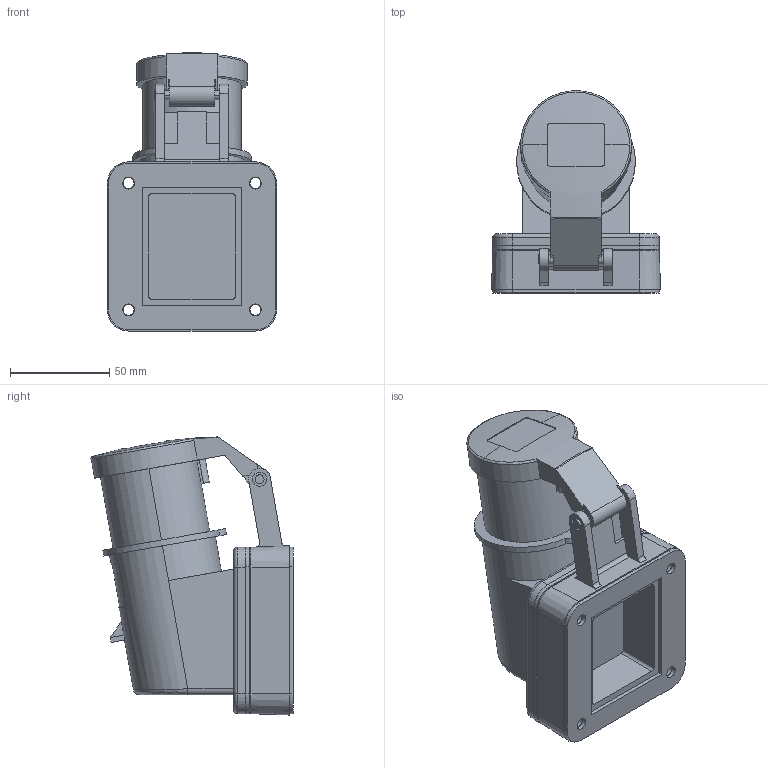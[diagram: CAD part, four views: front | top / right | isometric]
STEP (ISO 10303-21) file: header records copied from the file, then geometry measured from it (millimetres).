
FILE_DESCRIPTION((''),'2;1');
FILE_NAME('394_DUMMY_SW0001','2018-03-20T',('gisse'),('MENNEKES'),'PRO/ENGINEER BY PARAMETRIC TECHNOLOGY CORPORATION, 2015440','PRO/ENGINEER BY PARAMETRIC TECHNOLOGY CORPORATION, 2015440','');
FILE_SCHEMA(('AUTOMOTIVE_DESIGN { 1 0 10303 214 1 1 1 1 }'));
Length unit declared in the file: millimetre
Products named in the file (1): 394_DUMMY_SW0001
Bounding box: 85.4 x 102.02 x 140.37 mm (x, y, z)
Volume: 471055.7 mm3; surface area: 62040.5 mm2
Topology: 1 solids, 1 shells, 219 faces, 540 edges, 352 vertices
Faces by surface type: plane 105, cylinder 97, torus 10, cone 4, sphere 2, bspline 1
Entity records: 9200 total; most frequent: CARTESIAN_POINT 1398, DIRECTION 1176, ORIENTED_EDGE 1080, EDGE_CURVE 540, AXIS2_PLACEMENT_3D 437, VERTEX_POINT 352, FILL_AREA_STYLE_COLOUR 321, FILL_AREA_STYLE 321
